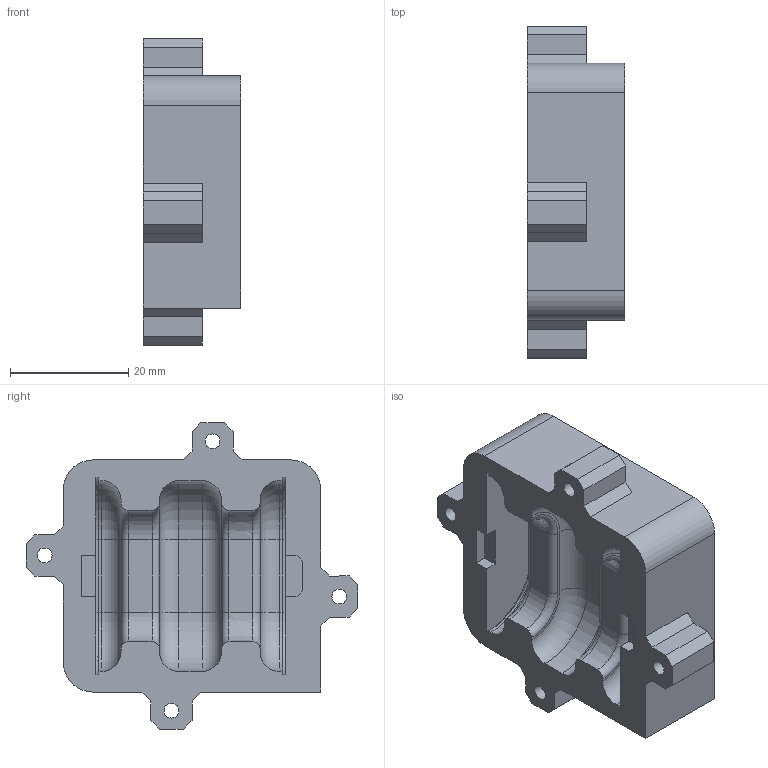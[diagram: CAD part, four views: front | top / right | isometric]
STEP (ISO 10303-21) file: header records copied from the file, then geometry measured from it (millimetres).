
FILE_DESCRIPTION(/* description */ (''),/* implementation_level */ '2;1');
FILE_NAME(/* name */ 'lower_mold.stp',/* time_stamp */ '2025-08-17T17:05:02+02:00',/* author */ ('MehdiBelhadj'),/* organization */ (''),/* preprocessor_version */ 'ST-DEVELOPER v20.1',/* originating_system */ 'Autodesk Inventor 2026',/* authorisation */ '');
FILE_SCHEMA (('AUTOMOTIVE_DESIGN { 1 0 10303 214 3 1 1 }'));
Length unit declared in the file: millimetre
Products named in the file (1): lower mold
Bounding box: 16.5 x 56.1 x 51.83 mm (x, y, z)
Volume: 22965.6 mm3; surface area: 8443.1 mm2
Topology: 1 solids, 1 shells, 142 faces, 385 edges, 250 vertices
Faces by surface type: plane 93, cylinder 31, torus 16, cone 2
Full cylindrical faces by diameter (mm): 2.5 x4
Entity records: 4657 total; most frequent: CARTESIAN_POINT 778, ORIENTED_EDGE 770, DIRECTION 769, EDGE_CURVE 385, LINE 287, VECTOR 287, VERTEX_POINT 250, AXIS2_PLACEMENT_3D 241
